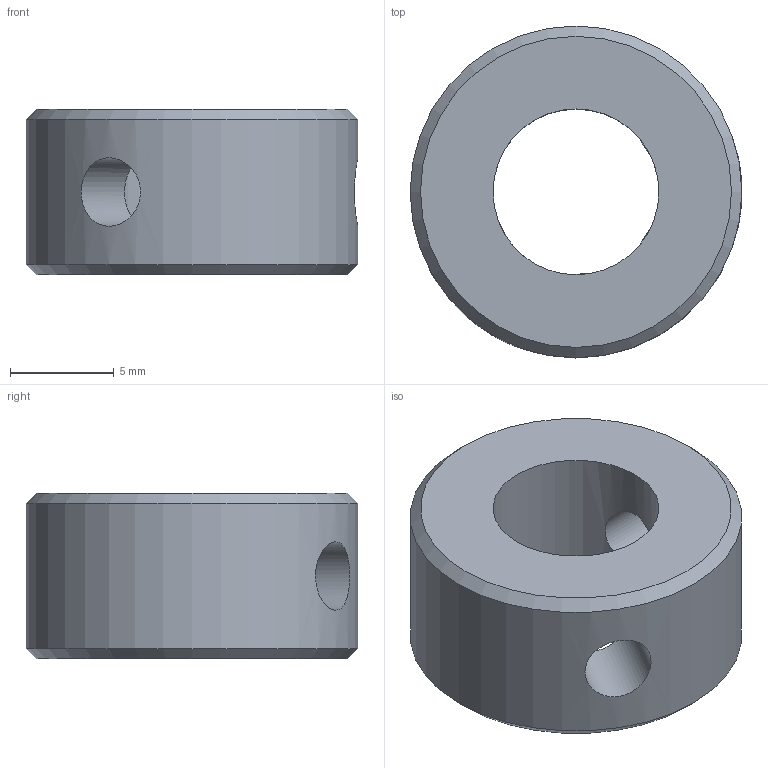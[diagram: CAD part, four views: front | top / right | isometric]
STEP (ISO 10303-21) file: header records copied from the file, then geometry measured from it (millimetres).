
FILE_DESCRIPTION (( 'STEP AP214' ), '1' );
FILE_NAME ('N90810.step', '2024-12-03T16:28:06', ( '' ), ( '' ), 'SwSTEP 2.0', 'SolidWorks 2023', '' );
FILE_SCHEMA (( 'AUTOMOTIVE_DESIGN' ));
Length unit declared in the file: millimetre
Products named in the file (1): N90810
Bounding box: 16 x 16 x 8 mm (x, y, z)
Volume: 1124.9 mm3; surface area: 924.8 mm2
Topology: 1 solids, 1 shells, 8 faces, 20 edges, 12 vertices
Faces by surface type: cylinder 4, plane 2, cone 2
Full cylindrical faces by diameter (mm): 3.3 x2, 8 x1, 16 x1
Entity records: 419 total; most frequent: CARTESIAN_POINT 241, DIRECTION 30, ORIENTED_EDGE 20, EDGE_LOOP 20, AXIS2_PLACEMENT_3D 15, FACE_OUTER_BOUND 12, VERTEX_POINT 10, EDGE_CURVE 10
